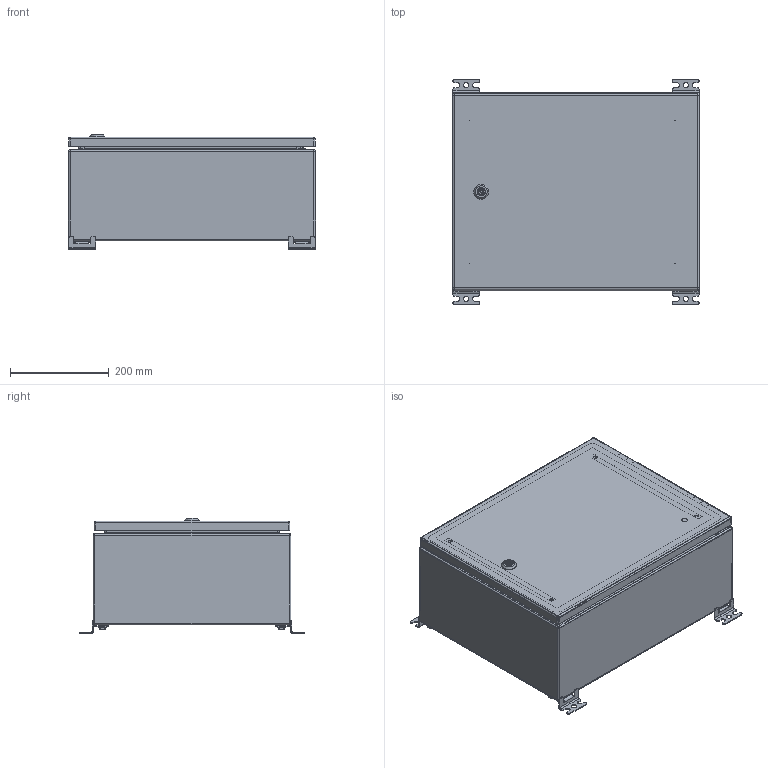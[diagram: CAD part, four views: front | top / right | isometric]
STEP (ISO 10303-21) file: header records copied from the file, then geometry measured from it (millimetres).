
FILE_DESCRIPTION(('STEP AP242'), '1');
FILE_NAME('400 ﾙﾌﾏ-1 (IP-56)', '', ('UNSPECIFIED'), ('UNSPECIFIED'), 'C3D Converter', 'C3D Toolkit', '');
FILE_SCHEMA(('AP242_MANAGED_MODEL_BASED_3D_ENGINEERING_MIM_LF { 1 0 10303 442 1 1 4 }'));
Length unit declared in the file: millimetre
Products named in the file (37): ЩМП-1 СБ; 410; 420; 421; 411; 412; 490; 491; 401.01; 440; 441; 402
Assembly tree (81 placements, depth 4):
  ЩМП-1 СБ
    410
      420
        421
        (unnamed)  x4
        (unnamed)
      411
      412
    490  x2
      491
      (unnamed)
      (unnamed)
      (unnamed)
      (unnamed)
      (unnamed)
    490  x2
      491
      (unnamed)
      (unnamed)
      (unnamed)
      (unnamed)
      (unnamed)
    401.01
    (unnamed)  x4
    (unnamed)  x4
    (unnamed)  x4
    (unnamed)  x4
    (unnamed)  x2
      (unnamed)
      (unnamed)
      (unnamed)
    (unnamed)  x4
    440
      441
      (unnamed)
      (unnamed)  x4
      (unnamed)  x2
    402  x2
    (unnamed)  x4
    (unnamed)  x4
    (unnamed)
      (unnamed)
      (unnamed)
      (unnamed)
      (unnamed)
      (unnamed)
    (unnamed)
Bounding box: 500 x 456 x 233.1 mm (x, y, z)
Volume: 1820720.1 mm3; surface area: 2185593.2 mm2
Topology: 90 solids, 90 shells, 1747 faces, 4130 edges, 2589 vertices
Faces by surface type: plane 979, cylinder 510, cone 157, sphere 28, extrusion 27, torus 26, bspline 20
Full cylindrical faces by diameter (mm): 0.5 x4, 2.6 x4, 3.5 x44, 4.2 x4, 4.917 x4, 5 x5, 5.5 x4, 5.8 x1, 6 x15, 6.4 x4, 6.647 x8, 7 x6, 7.3 x4, 7.5 x6, 8 x10, 8.376 x4, 8.4 x8, 8.5 x16, 9 x8, 10 x8, 10.4 x1, 10.5 x5, 11 x4, 11.4 x1, 11.5 x5, 12 x1, 12.3 x2, 15 x8, 15.5 x2, 15.8 x1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
Entity records: 62658 total; most frequent: CARTESIAN_POINT 34835, DIRECTION 4500, ORIENTED_EDGE 4452, EDGE_CURVE 2226, AXIS2_PLACEMENT_3D 1628, VERTEX_POINT 1478, VECTOR 1244, EDGE_LOOP 1218
